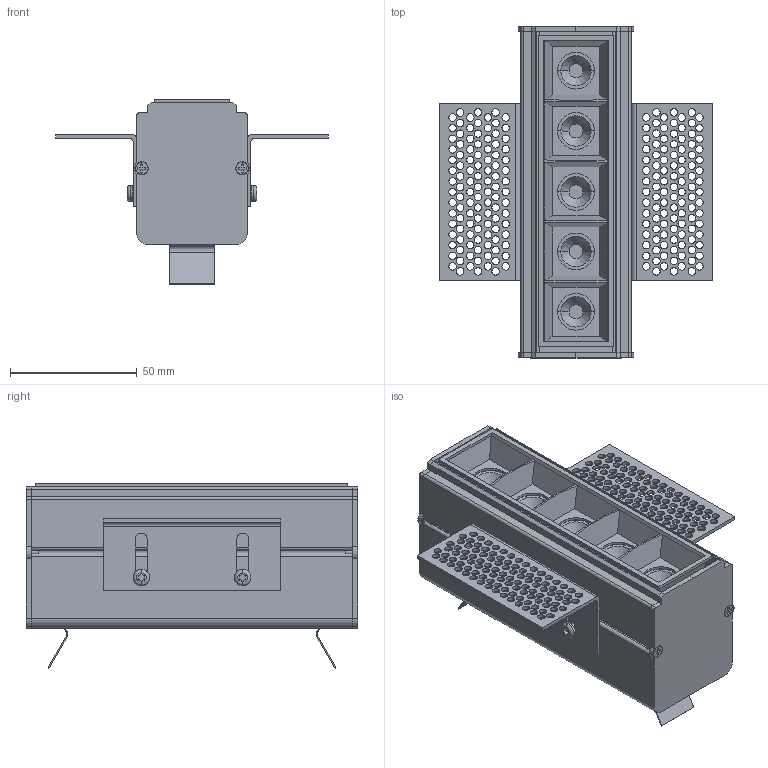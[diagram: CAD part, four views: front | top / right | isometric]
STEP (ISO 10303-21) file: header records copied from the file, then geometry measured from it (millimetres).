
FILE_DESCRIPTION(/* description */ (''),/* implementation_level */ '2;1');
FILE_NAME(/* name */ 'C:\Users\FrancoSartori\Documents\FARO\01_En Proceso\0000_2022\000_PRO\00_TROOP\03_Publicación\43706.stp',/* time_stamp */ '2022-06-15T12:34:13+02:00',/* author */ ('FrancoSartori'),/* organization */ (''),/* preprocessor_version */ 'ST-DEVELOPER v19',/* originating_system */ 'AutoCAD Mechanical',/* authorisation */ '');
FILE_SCHEMA (('AUTOMOTIVE_DESIGN { 1 0 10303 214 3 1 1 }'));
Length unit declared in the file: millimetre
Products named in the file (2): Product; 43706_ - GRUND-437848-View 1
Assembly tree (1 placements, depth 2):
  Product
    43706_ - GRUND-437848-View 1
Bounding box: 107.5 x 131 x 72.79 mm (x, y, z)
Volume: 84938.5 mm3; surface area: 96529.7 mm2
Topology: 26 solids, 26 shells, 949 faces, 2568 edges, 1664 vertices
Faces by surface type: cylinder 572, plane 339, bspline 20, cone 10, torus 8
Entity records: 31753 total; most frequent: CARTESIAN_POINT 5953, DIRECTION 5552, ORIENTED_EDGE 5136, EDGE_CURVE 2568, AXIS2_PLACEMENT_3D 2102, VERTEX_POINT 1664, EDGE_LOOP 1426, LINE 1348
